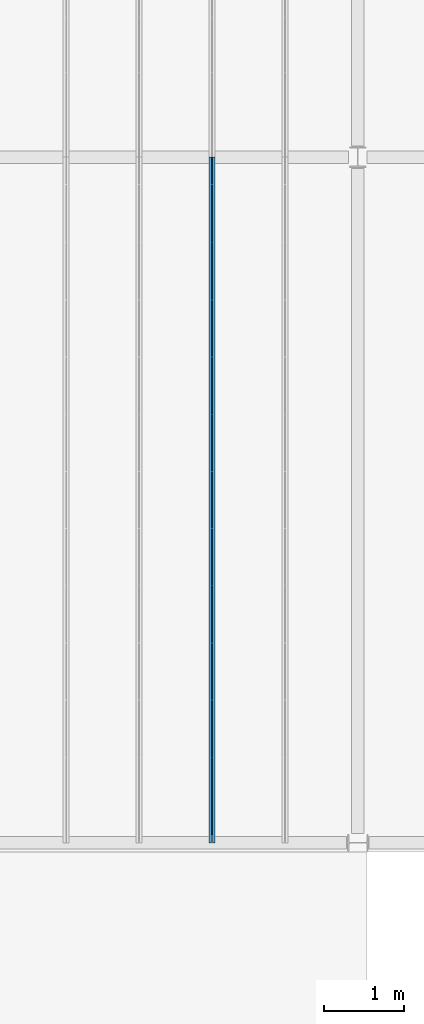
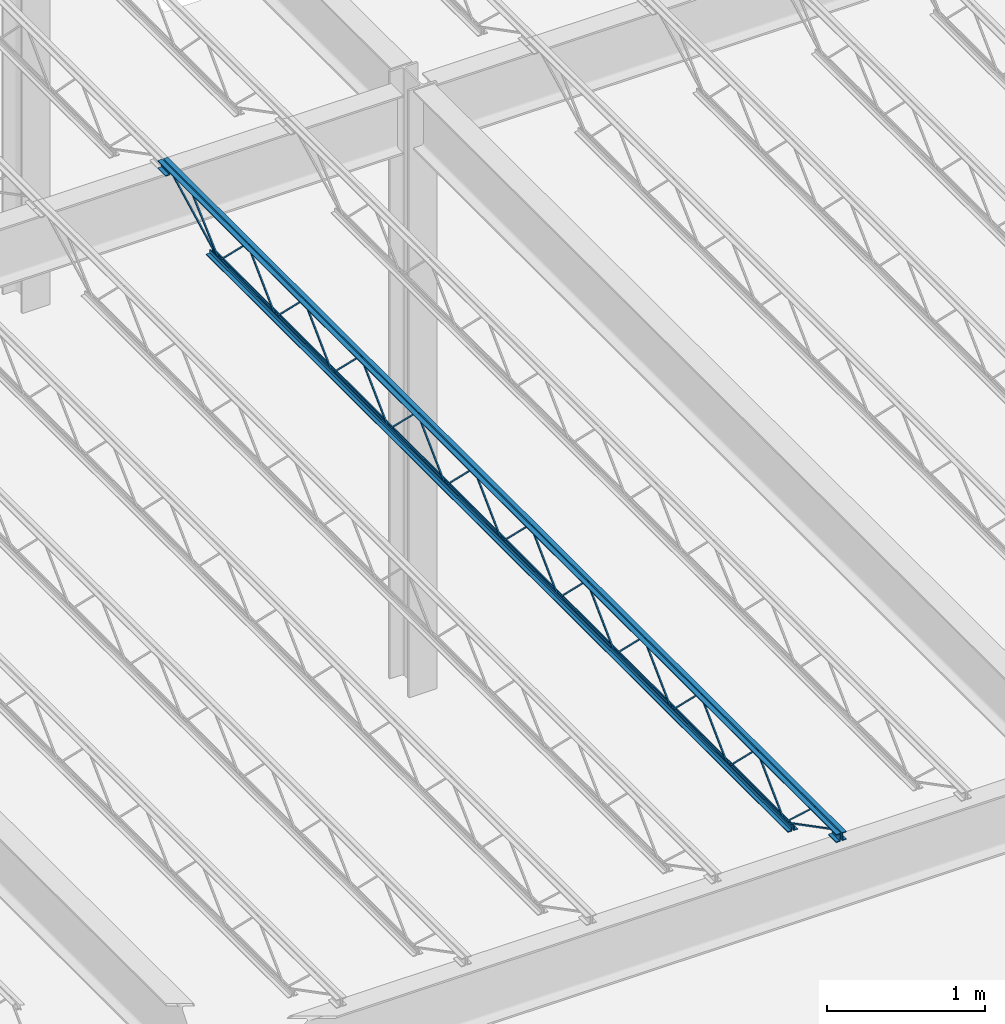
# One storey, part 44 of 119: 1 beam.
"""IFC2X3 building model written with IfcOpenShell, lengths in metres."""

from ifc_helpers import new_model, entity, si_unit, converted_unit, frame, origin, place, context, project, spatial, face_set, surface_model, element, save


model = new_model("IFC2X3")

# Units and contexts
model_context = context("Model", 3, precision=1e-09, world=origin())
plan_context = context("Plan", 3, precision=1e-09, world=origin())
ifc_project = project(units=[si_unit("LENGTHUNIT", "METRE"), si_unit("AREAUNIT", "SQUARE_METRE"), si_unit("VOLUMEUNIT", "CUBIC_METRE"), converted_unit("PLANEANGLEUNIT", "DEGREE", entity("IfcRatioMeasure", 0.01745329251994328), si_unit("PLANEANGLEUNIT", "RADIAN"), dimensions=[0, 0, 0, 0, 0, 0, 0]), si_unit("TIMEUNIT", "SECOND")], contexts=[model_context, plan_context])

# Site, building, storey
site_placement = place(None, origin())
site = spatial("IfcSite", under=ifc_project, at=site_placement, Name="Default", CompositionType="ELEMENT")
building_placement = place(site_placement, origin())
building = spatial("IfcBuilding", under=site, at=building_placement, CompositionType="ELEMENT")
storey_placement = place(building_placement, frame((0.0, 0.0, 4.570000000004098)))
storey = spatial("IfcBuildingStorey", under=building, at=storey_placement, Name="Second Floor", CompositionType="ELEMENT", Elevation=4.570000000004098)

# Beam
beam_placement = place(storey_placement, frame((-21.91960714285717, 10.04000000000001, 4.323999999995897), z_axis=(0.0, 0.0, 1.0), x_axis=(-1.0, 0.0, 0.0)))
element("IfcBeam", 1, at=beam_placement, inside=storey, Name="M_K-Series Bar Joist-Rod Web:14K1:14K1", ObjectType="M_K-Series Bar Joist-Rod Web:14K1", context=model_context, shape_type="SurfaceModel", body=[
    surface_model("IfcFaceBasedSurfaceModel", [(-0.03199999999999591, -2.141200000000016, 0.01110000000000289), (-0.04149999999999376, -2.141200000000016, 0.01110000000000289), (-0.04149999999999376, -2.141200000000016, 0.001600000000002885), (-0.03199999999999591, -2.141200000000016, 0.001600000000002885), (-0.04149999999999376, -2.139961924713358, 0.01110000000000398), (-0.03199999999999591, -2.139961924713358, 0.01110000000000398), (-0.04149999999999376, -2.136088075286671, 0.001600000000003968), (-0.0414999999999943, -1.785138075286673, 0.3449000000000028), (-0.0414999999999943, -1.782661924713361, 0.3449000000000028), (-0.04149999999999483, -1.431711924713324, 0.001600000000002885), (-0.04149999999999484, -1.426600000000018, 0.001600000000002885), (-0.04149999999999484, -1.426600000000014, 0.01110000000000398), (-0.04149999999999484, -1.427838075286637, 0.01110000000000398), (-0.04149999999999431, -1.778788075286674, 0.3544000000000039), (-0.04149999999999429, -1.78901192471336, 0.3544000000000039), (-0.03199999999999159, -2.136088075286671, 0.001600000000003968), (-0.03199999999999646, -1.785138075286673, 0.3449000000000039), (-0.03199999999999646, -1.782661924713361, 0.3449000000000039), (-0.03199999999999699, -1.431711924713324, 0.001600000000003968), (-0.031999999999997, -1.426600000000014, 0.001600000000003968), (-0.031999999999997, -1.426600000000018, 0.01110000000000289), (-0.031999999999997, -1.427838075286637, 0.01110000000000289), (-0.03199999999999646, -1.778788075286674, 0.3544000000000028), (-0.03199999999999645, -1.78901192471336, 0.3544000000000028), (-0.03199999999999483, -2.855800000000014, 0.01110000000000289), (-0.04149999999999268, -2.855800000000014, 0.01110000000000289), (-0.04149999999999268, -2.855800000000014, 0.001600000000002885), (-0.03199999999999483, -2.855800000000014, 0.001600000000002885), (-0.04149999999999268, -2.85456192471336, 0.01110000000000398), (-0.03199999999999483, -2.85456192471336, 0.01110000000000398), (-0.04149999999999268, -2.850688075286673, 0.001600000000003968), (-0.04149999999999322, -2.499738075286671, 0.3449000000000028), (-0.04149999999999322, -2.497261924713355, 0.3449000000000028), (-0.04149999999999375, -2.146311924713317, 0.001600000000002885), (-0.04149999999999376, -2.141200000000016, 0.01110000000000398), (-0.04149999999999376, -2.14243807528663, 0.01110000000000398), (-0.04149999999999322, -2.493388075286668, 0.3544000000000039), (-0.04149999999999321, -2.503611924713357, 0.3544000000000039), (-0.03199999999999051, -2.850688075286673, 0.001600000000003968), (-0.03199999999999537, -2.499738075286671, 0.3449000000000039), (-0.03199999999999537, -2.497261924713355, 0.3449000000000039), (-0.03199999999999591, -2.146311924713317, 0.001600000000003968), (-0.03199999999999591, -2.141200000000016, 0.001600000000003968), (-0.03199999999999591, -2.14243807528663, 0.01110000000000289), (-0.03199999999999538, -2.493388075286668, 0.3544000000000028), (-0.03199999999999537, -2.503611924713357, 0.3544000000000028), (-0.03199999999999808, -3.570400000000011, 0.01110000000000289), (-0.04149999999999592, -3.570400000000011, 0.01110000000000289), (-0.04149999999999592, -3.570400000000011, 0.001600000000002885), (-0.03199999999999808, -3.570400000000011, 0.001600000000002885), (-0.04149999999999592, -3.569161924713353, 0.01110000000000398), (-0.03199999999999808, -3.569161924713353, 0.01110000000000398), (-0.04149999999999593, -3.565288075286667, 0.001600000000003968), (-0.04149999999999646, -3.214338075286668, 0.3449000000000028), (-0.04149999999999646, -3.211861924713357, 0.3449000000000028), (-0.041499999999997, -2.86091192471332, 0.001600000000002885), (-0.04149999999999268, -2.855800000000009, 0.001600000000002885), (-0.04149999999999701, -2.855800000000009, 0.01110000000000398), (-0.041499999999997, -2.857038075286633, 0.01110000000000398), (-0.04149999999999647, -3.20798807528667, 0.3544000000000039), (-0.04149999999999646, -3.218211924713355, 0.3544000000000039), (-0.03199999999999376, -3.565288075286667, 0.001600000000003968), (-0.03199999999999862, -3.214338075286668, 0.3449000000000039), (-0.03199999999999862, -3.211861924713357, 0.3449000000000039), (-0.03199999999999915, -2.86091192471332, 0.001600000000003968), (-0.03199999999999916, -2.855800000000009, 0.001600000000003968), (-0.03199999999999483, -2.855800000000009, 0.01110000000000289), (-0.03199999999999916, -2.857038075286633, 0.01110000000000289), (-0.03199999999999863, -3.20798807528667, 0.3544000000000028), (-0.03199999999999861, -3.218211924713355, 0.3544000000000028), (-0.031999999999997, -4.285000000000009, 0.01110000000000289), (-0.04149999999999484, -4.285000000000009, 0.01110000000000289), (-0.04149999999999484, -4.285000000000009, 0.001600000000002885), (-0.031999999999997, -4.285000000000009, 0.001600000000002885), (-0.04149999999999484, -4.283761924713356, 0.01110000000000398), (-0.031999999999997, -4.283761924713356, 0.01110000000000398), (-0.04149999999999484, -4.279888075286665, 0.001600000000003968), (-0.04149999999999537, -3.928938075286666, 0.3449000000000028), (-0.04149999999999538, -3.92646192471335, 0.3449000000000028), (-0.04149999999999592, -3.575511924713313, 0.001600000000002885), (-0.04149999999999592, -3.570400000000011, 0.01110000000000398), (-0.04149999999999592, -3.571638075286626, 0.01110000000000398), (-0.04149999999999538, -3.922588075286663, 0.3544000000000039), (-0.04149999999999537, -3.932811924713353, 0.3544000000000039), (-0.03199999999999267, -4.279888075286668, 0.001600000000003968), (-0.03199999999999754, -3.928938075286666, 0.3449000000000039), (-0.03199999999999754, -3.92646192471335, 0.3449000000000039), (-0.03199999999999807, -3.575511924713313, 0.001600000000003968), (-0.03199999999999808, -3.570400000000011, 0.001600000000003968), (-0.03199999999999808, -3.571638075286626, 0.01110000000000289), (-0.03199999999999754, -3.922588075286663, 0.3544000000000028), (-0.03199999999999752, -3.932811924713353, 0.3544000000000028), (-0.03199999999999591, -4.999600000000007, 0.01110000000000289), (-0.04149999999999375, -4.999600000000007, 0.01110000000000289), (-0.04149999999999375, -4.999600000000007, 0.001600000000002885), (-0.03199999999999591, -4.999600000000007, 0.001600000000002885), (-0.04149999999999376, -4.998361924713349, 0.01110000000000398), (-0.03199999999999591, -4.998361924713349, 0.01110000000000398), (-0.04149999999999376, -4.994488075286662, 0.001600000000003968), (-0.04149999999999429, -4.643538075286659, 0.3449000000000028), (-0.0414999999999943, -4.641061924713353, 0.3449000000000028), (-0.04149999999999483, -4.290111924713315, 0.001600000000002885), (-0.04149999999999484, -4.285000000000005, 0.001600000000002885), (-0.04149999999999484, -4.285000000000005, 0.01110000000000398), (-0.04149999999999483, -4.286238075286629, 0.01110000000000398), (-0.0414999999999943, -4.637188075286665, 0.3544000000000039), (-0.04149999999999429, -4.647411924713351, 0.3544000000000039), (-0.03199999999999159, -4.994488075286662, 0.001600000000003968), (-0.03199999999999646, -4.643538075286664, 0.3449000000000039), (-0.03199999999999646, -4.641061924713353, 0.3449000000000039), (-0.03199999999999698, -4.290111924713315, 0.001600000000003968), (-0.031999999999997, -4.285000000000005, 0.001600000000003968), (-0.031999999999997, -4.285000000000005, 0.01110000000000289), (-0.031999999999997, -4.286238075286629, 0.01110000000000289), (-0.03199999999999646, -4.637188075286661, 0.3544000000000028), (-0.03199999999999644, -4.647411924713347, 0.3544000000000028), (-0.03199999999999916, -5.714200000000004, 0.01110000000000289), (-0.041499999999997, -5.714200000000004, 0.01110000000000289), (-0.041499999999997, -5.714200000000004, 0.001600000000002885), (-0.03199999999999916, -5.714200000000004, 0.001600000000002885), (-0.04149999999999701, -5.712961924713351, 0.01110000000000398), (-0.03199999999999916, -5.712961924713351, 0.01110000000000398), (-0.04149999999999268, -5.70908807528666, 0.001600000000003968), (-0.04149999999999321, -5.358138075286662, 0.3449000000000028), (-0.04149999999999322, -5.355661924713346, 0.3449000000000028), (-0.04149999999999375, -5.004711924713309, 0.001600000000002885), (-0.04149999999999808, -4.999600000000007, 0.01110000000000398), (-0.04149999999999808, -5.000838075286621, 0.01110000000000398), (-0.04149999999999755, -5.351788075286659, 0.3544000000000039), (-0.04149999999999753, -5.362011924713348, 0.3544000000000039), (-0.03199999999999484, -5.709088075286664, 0.001600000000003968), (-0.0319999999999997, -5.358138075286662, 0.3449000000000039), (-0.0319999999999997, -5.355661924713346, 0.3449000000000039), (-0.03200000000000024, -5.004711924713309, 0.001600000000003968), (-0.03200000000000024, -4.999600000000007, 0.001600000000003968), (-0.03199999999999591, -5.000838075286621, 0.01110000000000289), (-0.03199999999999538, -5.351788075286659, 0.3544000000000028), (-0.03199999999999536, -5.362011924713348, 0.3544000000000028), (-0.03199999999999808, -6.428800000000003, 0.01110000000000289), (-0.04149999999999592, -6.428800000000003, 0.01110000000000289), (-0.04149999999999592, -6.428800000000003, 0.001600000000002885), (-0.03199999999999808, -6.428800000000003, 0.001600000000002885), (-0.04149999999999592, -6.427561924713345, 0.01110000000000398), (-0.03199999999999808, -6.427561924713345, 0.01110000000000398), (-0.04149999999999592, -6.423688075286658, 0.001600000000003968), (-0.04149999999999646, -6.072738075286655, 0.3449000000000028), (-0.04149999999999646, -6.070261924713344, 0.3449000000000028), (-0.04149999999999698, -5.719311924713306, 0.001600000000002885), (-0.041499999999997, -5.714200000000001, 0.001600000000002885), (-0.041499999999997, -5.714200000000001, 0.01110000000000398), (-0.041499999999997, -5.715438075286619, 0.01110000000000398), (-0.04149999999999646, -6.066388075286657, 0.3544000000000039), (-0.04149999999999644, -6.076611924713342, 0.3544000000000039), (-0.03199999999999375, -6.423688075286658, 0.001600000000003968), (-0.03199999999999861, -6.072738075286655, 0.3449000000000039), (-0.03199999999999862, -6.070261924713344, 0.3449000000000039), (-0.03199999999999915, -5.719311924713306, 0.001600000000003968), (-0.03199999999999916, -5.714200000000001, 0.001600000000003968), (-0.03199999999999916, -5.714200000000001, 0.01110000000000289), (-0.03199999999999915, -5.715438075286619, 0.01110000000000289), (-0.03199999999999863, -6.066388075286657, 0.3544000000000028), (-0.03199999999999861, -6.076611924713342, 0.3544000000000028), (-0.03199999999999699, -7.143399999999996, 0.01110000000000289), (-0.04149999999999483, -7.143399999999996, 0.01110000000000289), (-0.04149999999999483, -7.143399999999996, 0.001600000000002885), (-0.03199999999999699, -7.143399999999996, 0.001600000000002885), (-0.04149999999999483, -7.142161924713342, 0.01110000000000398), (-0.031999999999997, -7.142161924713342, 0.01110000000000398), (-0.04149999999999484, -7.138288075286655, 0.001600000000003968), (-0.04149999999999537, -6.787338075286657, 0.3449000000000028), (-0.04149999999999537, -6.784861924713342, 0.3449000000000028), (-0.0414999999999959, -6.433911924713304, 0.001600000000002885), (-0.04149999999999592, -6.428799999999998, 0.001600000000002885), (-0.04149999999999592, -6.428799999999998, 0.01110000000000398), (-0.04149999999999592, -6.430038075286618, 0.01110000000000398), (-0.04149999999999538, -6.780988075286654, 0.3544000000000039), (-0.04149999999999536, -6.791211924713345, 0.3544000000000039), (-0.03199999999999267, -7.138288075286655, 0.001600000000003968), (-0.03199999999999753, -6.787338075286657, 0.3449000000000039), (-0.03199999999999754, -6.784861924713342, 0.3449000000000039), (-0.03199999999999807, -6.433911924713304, 0.001600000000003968), (-0.03199999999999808, -6.428799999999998, 0.001600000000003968), (-0.03199999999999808, -6.428799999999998, 0.01110000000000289), (-0.03199999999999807, -6.430038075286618, 0.01110000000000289), (-0.03199999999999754, -6.780988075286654, 0.3544000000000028), (-0.03199999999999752, -6.791211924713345, 0.3544000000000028), (-0.031999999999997, -1.426600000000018, 0.01109999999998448), (-0.04149999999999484, -1.426600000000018, 0.01109999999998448), (-0.04149999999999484, -1.426600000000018, 0.001599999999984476), (-0.031999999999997, -1.426600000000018, 0.001599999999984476), (-0.04149999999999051, -1.425361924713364, 0.01109999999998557), (-0.03199999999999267, -1.425361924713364, 0.01109999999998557), (-0.04149999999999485, -1.421488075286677, 0.001599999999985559), (-0.04149999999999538, -1.070538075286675, 0.3448999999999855), (-0.04149999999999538, -1.068061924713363, 0.3448999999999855), (-0.04149999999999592, -0.7171119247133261, 0.001599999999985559), (-0.04149999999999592, -0.7120000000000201, 0.001599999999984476), (-0.04149999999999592, -0.712000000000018, 0.01109999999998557), (-0.04149999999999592, -0.7132380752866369, 0.01109999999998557), (-0.04149999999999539, -1.064188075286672, 0.3543999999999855), (-0.04149999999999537, -1.074411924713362, 0.3543999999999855), (-0.03199999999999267, -1.421488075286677, 0.001599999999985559), (-0.0319999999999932, -1.070538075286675, 0.3448999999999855), (-0.03199999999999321, -1.068061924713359, 0.3448999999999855), (-0.03199999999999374, -0.7171119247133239, 0.001599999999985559), (-0.03199999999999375, -0.712000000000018, 0.001599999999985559), (-0.03199999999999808, -0.7120000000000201, 0.01109999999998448), (-0.03199999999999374, -0.713238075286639, 0.01109999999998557), (-0.03199999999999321, -1.064188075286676, 0.3543999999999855), (-0.0319999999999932, -1.074411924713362, 0.3543999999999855), (-0.03199999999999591, -7.857999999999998, 0.01110000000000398), (-0.04149999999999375, -7.857999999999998, 0.01110000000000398), (-0.04149999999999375, -7.857999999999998, 0.001600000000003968), (-0.03199999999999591, -7.857999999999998, 0.001600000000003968), (-0.04149999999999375, -7.85676192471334, 0.01110000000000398), (-0.03199999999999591, -7.85676192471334, 0.01110000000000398), (-0.04149999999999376, -7.852888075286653, 0.001600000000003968), (-0.04149999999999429, -7.501938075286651, 0.3449000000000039), (-0.04149999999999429, -7.499461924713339, 0.3449000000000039), (-0.04149999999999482, -7.148511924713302, 0.001600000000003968), (-0.04149999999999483, -7.143399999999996, 0.001600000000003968), (-0.04149999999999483, -7.143399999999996, 0.01110000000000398), (-0.04149999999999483, -7.144638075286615, 0.01110000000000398), (-0.0414999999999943, -7.495588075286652, 0.3544000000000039), (-0.04149999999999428, -7.505811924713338, 0.3544000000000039), (-0.03199999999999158, -7.852888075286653, 0.001600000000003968), (-0.03199999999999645, -7.501938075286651, 0.3449000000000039), (-0.03199999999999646, -7.499461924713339, 0.3449000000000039), (-0.03199999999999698, -7.148511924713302, 0.001600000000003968), (-0.03199999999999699, -7.143399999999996, 0.001600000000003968), (-0.03199999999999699, -7.143399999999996, 0.01110000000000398), (-0.03199999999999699, -7.144638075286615, 0.01110000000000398), (-0.03199999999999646, -7.495588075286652, 0.3544000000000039), (-0.03199999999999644, -7.505811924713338, 0.3544000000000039), (-0.04149999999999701, 0.0, 0.3559999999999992), (-0.07349999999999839, 0.0, 0.3559999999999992), (-0.07349999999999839, 0.0, 0.3494999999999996), (-0.04799999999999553, 0.0, 0.3494999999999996), (-0.04799999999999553, 0.0, 0.3239999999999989), (-0.04149999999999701, 0.0, 0.3239999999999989), (-0.03199999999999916, 0.0, 0.3559999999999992), (-0.03199999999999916, 0.0, 0.3239999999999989), (-0.02549999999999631, 0.0, 0.3239999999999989), (-0.02549999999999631, 0.0, 0.3494999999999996), (0.0, 0.0, 0.3494999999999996), (0.0, 0.0, 0.3559999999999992), (-0.04149999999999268, -8.57, 0.3559999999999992), (-0.07349999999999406, -8.57, 0.3559999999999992), (-0.07349999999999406, -8.57, 0.3494999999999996), (-0.0479999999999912, -8.57, 0.3494999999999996), (-0.0479999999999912, -8.57, 0.3239999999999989), (-0.04149999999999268, -8.57, 0.3239999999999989), (-0.03199999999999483, -8.57, 0.3559999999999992), (-0.03199999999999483, -8.57, 0.3239999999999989), (-0.02549999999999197, -8.57, 0.3239999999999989), (-0.02549999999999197, -8.57, 0.3494999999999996), (0.0, -8.57, 0.3494999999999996), (0.0, -8.57, 0.3559999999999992), (-0.03199999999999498, -8.470000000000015, 0.2924999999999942), (0.0, -8.470000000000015, 0.2924999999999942), (0.0, -8.470000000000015, 0.2989999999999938), (-0.02549999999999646, -8.470000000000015, 0.2989999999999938), (-0.02549999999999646, -8.470000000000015, 0.3239999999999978), (-0.03199999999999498, -8.470000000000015, 0.3239999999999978), (-0.07349999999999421, -8.470000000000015, 0.2924999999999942), (-0.04149999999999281, -8.470000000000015, 0.2924999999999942), (-0.04149999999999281, -8.470000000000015, 0.3239999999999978), (-0.04799999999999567, -8.470000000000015, 0.3239999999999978), (-0.04799999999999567, -8.470000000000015, 0.2989999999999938), (-0.07349999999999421, -8.470000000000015, 0.2989999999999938), (-0.03199999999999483, -8.57, 0.2924999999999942), (0.0, -8.57, 0.2924999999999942), (0.0, -8.57, 0.2989999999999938), (-0.02549999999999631, -8.57, 0.2989999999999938), (-0.02549999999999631, -8.57, 0.3239999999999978), (-0.03199999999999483, -8.57, 0.3239999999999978), (-0.07349999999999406, -8.57, 0.2924999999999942), (-0.04149999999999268, -8.57, 0.2924999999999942), (-0.04149999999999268, -8.57, 0.3239999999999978), (-0.04799999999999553, -8.57, 0.3239999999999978), (-0.04799999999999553, -8.57, 0.2989999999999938), (-0.07349999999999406, -8.57, 0.2989999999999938), (-0.04149999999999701, 0.0, 0.2924999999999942), (-0.04149999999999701, 0.0, 0.3239999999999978), (-0.04799999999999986, 0.0, 0.3239999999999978), (-0.04799999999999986, 0.0, 0.2989999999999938), (-0.07349999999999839, 0.0, 0.2989999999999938), (-0.07349999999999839, 0.0, 0.2924999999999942), (-0.03199999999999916, 0.0, 0.2924999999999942), (0.0, 0.0, 0.2924999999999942), (0.0, 0.0, 0.2989999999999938), (-0.02550000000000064, 0.0, 0.2989999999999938), (-0.02550000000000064, 0.0, 0.3239999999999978), (-0.03199999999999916, 0.0, 0.3239999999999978), (-0.04149999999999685, -0.1000000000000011, 0.2924999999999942), (-0.04149999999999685, -0.1000000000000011, 0.3239999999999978), (-0.0479999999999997, -0.1000000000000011, 0.3239999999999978), (-0.0479999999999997, -0.1000000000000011, 0.2989999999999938), (-0.07349999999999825, -0.1000000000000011, 0.2989999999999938), (-0.07349999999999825, -0.1000000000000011, 0.2924999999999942), (-0.03199999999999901, -0.1000000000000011, 0.2924999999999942), (0.0, -0.1000000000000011, 0.2924999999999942), (0.0, -0.1000000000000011, 0.2989999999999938), (-0.02550000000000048, -0.1000000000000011, 0.2989999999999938), (-0.02550000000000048, -0.1000000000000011, 0.3239999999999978), (-0.03199999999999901, -0.1000000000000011, 0.3239999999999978), (-0.04149999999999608, -0.6119999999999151, 0.0), (-0.04149999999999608, -0.6119999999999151, 0.03199999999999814), (-0.0479999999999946, -0.6119999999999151, 0.03199999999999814), (-0.0479999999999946, -0.6119999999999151, 0.006499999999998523), (-0.07349999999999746, -0.6119999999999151, 0.006499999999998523), (-0.07349999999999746, -0.6119999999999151, 0.0), (-0.03199999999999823, -0.6119999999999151, 0.0), (0.0, -0.6119999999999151, 0.0), (0.0, -0.6119999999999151, 0.006499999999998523), (-0.02549999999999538, -0.6119999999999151, 0.006499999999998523), (-0.02549999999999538, -0.6119999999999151, 0.03199999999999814), (-0.03199999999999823, -0.6119999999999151, 0.03199999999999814), (-0.0414999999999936, -7.957999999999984, 0.0), (-0.0414999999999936, -7.957999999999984, 0.03199999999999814), (-0.04799999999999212, -7.957999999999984, 0.03199999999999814), (-0.04799999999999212, -7.957999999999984, 0.006499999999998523), (-0.07349999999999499, -7.957999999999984, 0.006499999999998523), (-0.07349999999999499, -7.957999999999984, 0.0), (-0.03199999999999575, -7.957999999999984, 0.0), (0.0, -7.957999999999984, 0.0), (0.0, -7.957999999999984, 0.006499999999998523), (-0.0254999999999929, -7.957999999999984, 0.006499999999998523), (-0.0254999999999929, -7.957999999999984, 0.03199999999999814), (-0.03199999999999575, -7.957999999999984, 0.03199999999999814), (-0.03199999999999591, -7.855811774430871, 0.01056594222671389), (-0.04149999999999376, -7.855811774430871, 0.01056594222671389), (-0.04149999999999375, -7.860188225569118, 0.002134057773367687), (-0.03199999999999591, -7.860188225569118, 0.00213405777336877), (-0.03199999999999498, -8.4688407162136, 0.3287499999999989), (-0.03199999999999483, -8.57, 0.3287499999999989), (-0.03199999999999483, -8.569999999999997, 0.3192499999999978), (-0.03199999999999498, -8.471159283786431, 0.3192499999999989), (-0.04149999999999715, -8.471159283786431, 0.3192499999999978), (-0.04149999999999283, -8.4688407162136, 0.3287499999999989), (-0.04149999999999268, -8.569999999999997, 0.3287499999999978), (-0.04149999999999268, -8.57, 0.3192499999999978), (-0.03199999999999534, -8.23525714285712, 0.3417000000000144), (-0.04149999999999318, -8.23525714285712, 0.3417000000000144), (-0.04149999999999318, -8.23525714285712, 0.3322000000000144), (-0.03199999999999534, -8.23525714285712, 0.3322000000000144), (-0.0414999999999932, -8.220724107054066, 0.3417000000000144), (-0.03199999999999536, -8.220724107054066, 0.3417000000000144), (-0.04149999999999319, -8.224390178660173, 0.3322000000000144), (-0.04149999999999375, -7.861190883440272, 0.002831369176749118), (-0.04149999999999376, -7.854809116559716, 0.009868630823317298), (-0.03199999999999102, -8.224390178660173, 0.3322000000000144), (-0.0319999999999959, -7.861190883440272, 0.002831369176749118), (-0.03199999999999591, -7.854809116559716, 0.009868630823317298), (-0.03199999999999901, -0.09781177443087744, 0.3197840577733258), (-0.031999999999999, -0.1021882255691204, 0.328215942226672), (-0.04149999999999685, -0.1021882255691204, 0.328215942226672), (-0.04149999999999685, -0.09781177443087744, 0.3197840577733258), (-0.03199999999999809, -0.7098117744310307, 0.002134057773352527), (-0.03199999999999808, -0.7141882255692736, 0.01056594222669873), (-0.04149999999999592, -0.7141882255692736, 0.01056594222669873), (-0.04149999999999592, -0.7098117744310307, 0.002134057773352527), (-0.03199999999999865, -0.336963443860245, 0.3461600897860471), (-0.03199999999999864, -0.3434079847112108, 0.3531399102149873), (-0.04149999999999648, -0.3434079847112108, 0.3531399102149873), (-0.04149999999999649, -0.336963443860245, 0.3461600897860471), (-0.03199999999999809, -0.7087777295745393, 0.00286008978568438), (-0.03199999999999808, -0.7152222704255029, 0.009839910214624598), (-0.04149999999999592, -0.7152222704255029, 0.009839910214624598), (-0.04149999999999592, -0.7087777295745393, 0.00286008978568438)], [face_set([[[0, 1, 2, 3]], [[1, 4, 5, 0]], [[2, 6, 7, 8, 9, 10, 11, 12, 13, 14, 4, 1]], [[3, 2, 6, 15]], [[0, 3, 15, 16, 17, 18, 19, 20, 21, 22, 23, 5]], [[4, 5, 23, 14]], [[15, 16, 7, 6]], [[14, 13, 22, 23]], [[16, 7, 8, 17]], [[13, 12, 21, 22]], [[17, 8, 9, 18]], [[20, 11, 10, 19]], [[12, 11, 20, 21]], [[18, 9, 10, 19]]]), face_set([[[24, 25, 26, 27]], [[25, 28, 29, 24]], [[26, 30, 31, 32, 33, 2, 34, 35, 36, 37, 28, 25]], [[27, 26, 30, 38]], [[24, 27, 38, 39, 40, 41, 42, 0, 43, 44, 45, 29]], [[28, 29, 45, 37]], [[38, 39, 31, 30]], [[37, 36, 44, 45]], [[39, 31, 32, 40]], [[36, 35, 43, 44]], [[40, 32, 33, 41]], [[0, 34, 2, 42]], [[35, 34, 0, 43]], [[41, 33, 2, 42]]]), face_set([[[46, 47, 48, 49]], [[47, 50, 51, 46]], [[48, 52, 53, 54, 55, 56, 57, 58, 59, 60, 50, 47]], [[49, 48, 52, 61]], [[46, 49, 61, 62, 63, 64, 65, 66, 67, 68, 69, 51]], [[50, 51, 69, 60]], [[61, 62, 53, 52]], [[60, 59, 68, 69]], [[62, 53, 54, 63]], [[59, 58, 67, 68]], [[63, 54, 55, 64]], [[66, 57, 56, 65]], [[58, 57, 66, 67]], [[64, 55, 56, 65]]]), face_set([[[70, 71, 72, 73]], [[71, 74, 75, 70]], [[72, 76, 77, 78, 79, 48, 80, 81, 82, 83, 74, 71]], [[73, 72, 76, 84]], [[70, 73, 84, 85, 86, 87, 88, 46, 89, 90, 91, 75]], [[74, 75, 91, 83]], [[84, 85, 77, 76]], [[83, 82, 90, 91]], [[85, 77, 78, 86]], [[82, 81, 89, 90]], [[86, 78, 79, 87]], [[46, 80, 48, 88]], [[81, 80, 46, 89]], [[87, 79, 48, 88]]]), face_set([[[92, 93, 94, 95]], [[93, 96, 97, 92]], [[94, 98, 99, 100, 101, 102, 103, 104, 105, 106, 96, 93]], [[95, 94, 98, 107]], [[92, 95, 107, 108, 109, 110, 111, 112, 113, 114, 115, 97]], [[96, 97, 115, 106]], [[107, 108, 99, 98]], [[106, 105, 114, 115]], [[108, 99, 100, 109]], [[105, 104, 113, 114]], [[109, 100, 101, 110]], [[112, 103, 102, 111]], [[104, 103, 112, 113]], [[110, 101, 102, 111]]]), face_set([[[116, 117, 118, 119]], [[117, 120, 121, 116]], [[118, 122, 123, 124, 125, 94, 126, 127, 128, 129, 120, 117]], [[119, 118, 122, 130]], [[116, 119, 130, 131, 132, 133, 134, 92, 135, 136, 137, 121]], [[120, 121, 137, 129]], [[130, 131, 123, 122]], [[129, 128, 136, 137]], [[131, 123, 124, 132]], [[128, 127, 135, 136]], [[132, 124, 125, 133]], [[92, 126, 94, 134]], [[127, 126, 92, 135]], [[133, 125, 94, 134]]]), face_set([[[138, 139, 140, 141]], [[139, 142, 143, 138]], [[140, 144, 145, 146, 147, 148, 149, 150, 151, 152, 142, 139]], [[141, 140, 144, 153]], [[138, 141, 153, 154, 155, 156, 157, 158, 159, 160, 161, 143]], [[142, 143, 161, 152]], [[153, 154, 145, 144]], [[152, 151, 160, 161]], [[154, 145, 146, 155]], [[151, 150, 159, 160]], [[155, 146, 147, 156]], [[158, 149, 148, 157]], [[150, 149, 158, 159]], [[156, 147, 148, 157]]]), face_set([[[162, 163, 164, 165]], [[163, 166, 167, 162]], [[164, 168, 169, 170, 171, 172, 173, 174, 175, 176, 166, 163]], [[165, 164, 168, 177]], [[162, 165, 177, 178, 179, 180, 181, 182, 183, 184, 185, 167]], [[166, 167, 185, 176]], [[177, 178, 169, 168]], [[176, 175, 184, 185]], [[178, 169, 170, 179]], [[175, 174, 183, 184]], [[179, 170, 171, 180]], [[182, 173, 172, 181]], [[174, 173, 182, 183]], [[180, 171, 172, 181]]]), face_set([[[186, 187, 188, 189]], [[187, 190, 191, 186]], [[188, 192, 193, 194, 195, 196, 197, 198, 199, 200, 190, 187]], [[189, 188, 192, 201]], [[186, 189, 201, 202, 203, 204, 205, 206, 207, 208, 209, 191]], [[190, 191, 209, 200]], [[201, 202, 193, 192]], [[200, 199, 208, 209]], [[202, 193, 194, 203]], [[199, 198, 207, 208]], [[203, 194, 195, 204]], [[206, 197, 196, 205]], [[198, 197, 206, 207]], [[204, 195, 196, 205]]]), face_set([[[210, 211, 212, 213]], [[211, 214, 215, 210]], [[212, 216, 217, 218, 219, 220, 221, 222, 223, 224, 214, 211]], [[213, 212, 216, 225]], [[210, 213, 225, 226, 227, 228, 229, 230, 231, 232, 233, 215]], [[214, 215, 233, 224]], [[225, 226, 217, 216]], [[224, 223, 232, 233]], [[226, 217, 218, 227]], [[223, 222, 231, 232]], [[227, 218, 219, 228]], [[230, 221, 220, 229]], [[222, 221, 230, 231]], [[228, 219, 220, 229]]]), face_set([[[234, 235, 236, 237, 238, 239]], [[240, 241, 242, 243, 244, 245]], [[246, 247, 248, 249, 250, 251]], [[252, 253, 254, 255, 256, 257]], [[239, 234, 246, 251]], [[238, 239, 251, 250]], [[237, 249, 250, 238]], [[236, 237, 249, 248]], [[235, 247, 248, 236]], [[234, 246, 247, 235]], [[245, 257, 252, 240]], [[244, 245, 257, 256]], [[243, 244, 256, 255]], [[242, 243, 255, 254]], [[241, 242, 254, 253]], [[240, 252, 253, 241]]]), face_set([[[258, 259, 260, 261, 262, 263]], [[264, 265, 266, 267, 268, 269]], [[270, 271, 272, 273, 274, 275]], [[276, 277, 278, 279, 280, 281]], [[263, 275, 270, 258]], [[262, 274, 275, 263]], [[261, 262, 274, 273]], [[260, 272, 273, 261]], [[259, 260, 272, 271]], [[258, 259, 271, 270]], [[269, 281, 276, 264]], [[268, 280, 281, 269]], [[267, 279, 280, 268]], [[266, 278, 279, 267]], [[265, 266, 278, 277]], [[264, 265, 277, 276]]]), face_set([[[282, 283, 284, 285, 286, 287]], [[288, 289, 290, 291, 292, 293]], [[294, 295, 296, 297, 298, 299]], [[300, 301, 302, 303, 304, 305]], [[287, 282, 294, 299]], [[286, 298, 299, 287]], [[285, 297, 298, 286]], [[284, 296, 297, 285]], [[283, 295, 296, 284]], [[282, 283, 295, 294]], [[293, 305, 300, 288]], [[292, 304, 305, 293]], [[291, 292, 304, 303]], [[290, 302, 303, 291]], [[289, 290, 302, 301]], [[288, 289, 301, 300]]]), face_set([[[306, 307, 308, 309, 310, 311]], [[312, 313, 314, 315, 316, 317]], [[318, 319, 320, 321, 322, 323]], [[324, 325, 326, 327, 328, 329]], [[311, 306, 318, 323]], [[310, 322, 323, 311]], [[309, 321, 322, 310]], [[308, 320, 321, 309]], [[307, 319, 320, 308]], [[306, 307, 319, 318]], [[317, 329, 324, 312]], [[316, 328, 329, 317]], [[315, 316, 328, 327]], [[314, 326, 327, 315]], [[313, 314, 326, 325]], [[312, 313, 325, 324]]]), face_set([[[330, 331, 332, 333]], [[333, 330, 334, 335, 336, 337]], [[332, 333, 337, 338]], [[331, 339, 340, 341, 338, 332]], [[330, 334, 339, 331]], [[335, 340, 341, 336]], [[338, 337, 336, 341]], [[334, 335, 340, 339]]]), face_set([[[342, 343, 344, 345]], [[343, 346, 347, 342]], [[344, 348, 349, 350, 346, 343]], [[345, 344, 348, 351]], [[342, 345, 351, 352, 353, 347]], [[353, 350, 349, 352]], [[346, 350, 353, 347]], [[351, 348, 349, 352]]]), face_set([[[354, 355, 356, 357]], [[358, 359, 360, 361]], [[357, 354, 358, 361]], [[356, 360, 361, 357]], [[355, 359, 360, 356]], [[354, 355, 359, 358]]]), face_set([[[362, 363, 364, 365]], [[366, 367, 368, 369]], [[365, 369, 366, 362]], [[364, 368, 369, 365]], [[363, 364, 368, 367]], [[362, 363, 367, 366]]])]),
])

save(model, "model.ifc")
